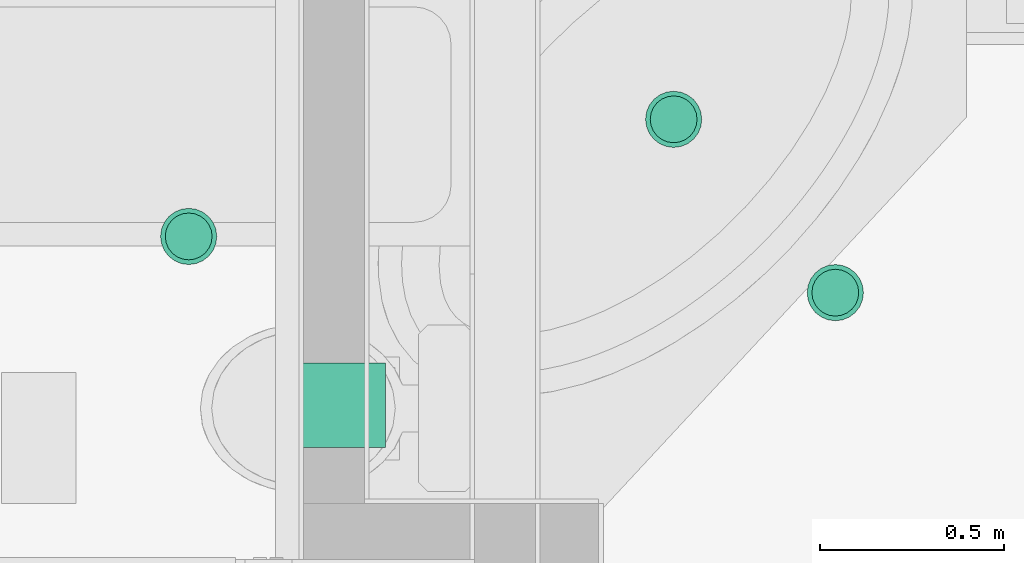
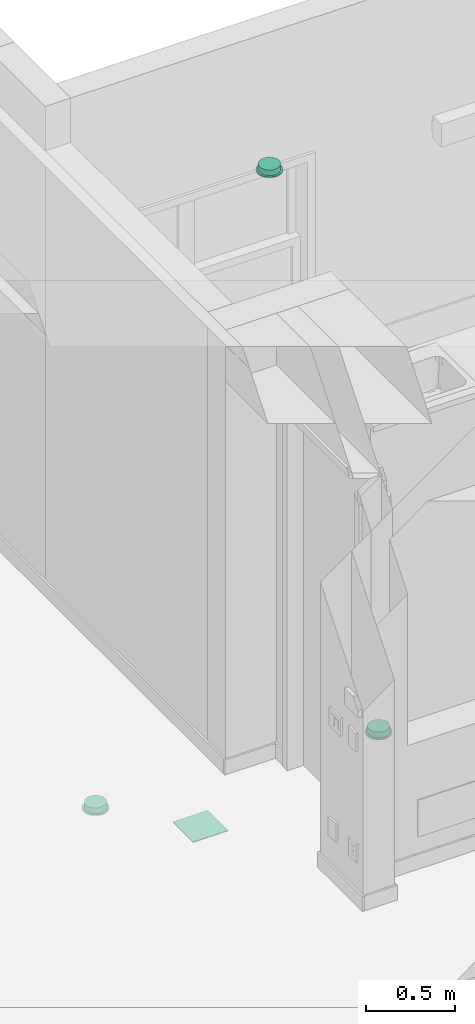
# One storey, part 41 of 60: 4 flow terminals.
"""IFC2X3 building model written with IfcOpenShell, lengths in feet."""

from ifc_helpers import new_model, entity, si_unit, converted_unit, direction, frame, origin, origin_2d_with_axis, place, context, subcontext, project, spatial, rectangle, extrude, faceted_brep, source, transform, mapped, material, material_list, type_object, type_shapes, element, save


model = new_model("IFC2X3")

# Units and contexts
model_context = context("Model", 3, precision=0.0001, world=origin(), true_north=direction((6.123031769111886e-17, 1.0)))
plan_context = context("Plan", 3, precision=0.0001, world=origin(), true_north=direction((6.123031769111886e-17, 1.0)))
body_context = subcontext(model_context, "Body", "Model", "MODEL_VIEW")
ifc_project = project(units=[converted_unit("LENGTHUNIT", "FOOT", entity("IfcLengthMeasure", 0.3048), si_unit("LENGTHUNIT", "METRE"), dimensions=[1, 0, 0, 0, 0, 0, 0]), converted_unit("AREAUNIT", "SQUARE FOOT", entity("IfcAreaMeasure", 0.09290304), si_unit("AREAUNIT", "SQUARE_METRE"), dimensions=[2, 0, 0, 0, 0, 0, 0]), converted_unit("PLANEANGLEUNIT", "DEGREE", entity("IfcPlaneAngleMeasure", 0.017453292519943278), si_unit("PLANEANGLEUNIT", "RADIAN"), dimensions=[0, 0, 0, 0, 0, 0, 0])], contexts=[model_context, plan_context])

# Site, building, storey
site_placement = place(None, origin())
site = spatial("IfcSite", under=ifc_project, at=site_placement, Name="Default", CompositionType="ELEMENT")
building_placement = place(site_placement, origin())
building = spatial("IfcBuilding", under=site, at=building_placement, CompositionType="ELEMENT")
storey_placement = place(building_placement, origin())
storey = spatial("IfcBuildingStorey", under=building, at=storey_placement, Name="First floor", CompositionType="ELEMENT", Elevation=0.0)

# Flow terminals
ifc_material_1 = material(Name="Default New Material")
ifc_material_2 = material(Name="Glass, White, High Luminance")
ifc_material_list = material_list([ifc_material_1, ifc_material_2])
light_fixture_type = type_object("IfcLightFixtureType", Name="C_Spotlight Recessed:Light 2", PredefinedType="NOTDEFINED", material=ifc_material_list)
shared_shape_1 = source(origin(), body_context, "Body", "Brep", [
    faceted_brep([(-0.12499999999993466, 0.21650635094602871, 0.020833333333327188), (-0.17677669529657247, 0.17677669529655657, 0.020833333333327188), (-0.08333333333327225, 0.14433756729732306, 0.020833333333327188), (-0.04313650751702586, 0.1609876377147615, 0.020833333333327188), (-0.0647047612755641, 0.24148145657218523, 0.020833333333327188), (-0.11785113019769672, 0.11785113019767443, 0.020833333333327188), (-0.21650635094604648, 0.12499999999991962, 0.020833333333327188), (-0.1443375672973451, 0.08333333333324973, 0.020833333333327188), (-0.16098763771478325, 0.04313650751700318, 0.020833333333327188), (-0.2414814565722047, 0.06470476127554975, 0.020833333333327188), (-0.166666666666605, 0.0, 0.020833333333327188), (-0.24999999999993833, 0.0, 0.020833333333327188), (-0.16098763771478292, -0.043136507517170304, 0.020833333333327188), (-0.24148145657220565, -0.06470476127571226, 0.020833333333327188), (-0.14433756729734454, -0.08333333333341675, 0.020833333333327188), (-0.2165063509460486, -0.12500000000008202, 0.020833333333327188), (-0.117851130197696, -0.11785113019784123, 0.020833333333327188), (-0.1767766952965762, -0.17677669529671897, 0.020833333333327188), (-0.08333333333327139, -0.14433756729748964, 0.020833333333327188), (-0.12499999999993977, -0.21650635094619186, 0.020833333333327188), (-0.04313650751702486, -0.16098763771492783, 0.020833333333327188), (-0.06470476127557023, -0.24148145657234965, 0.020833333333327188), (0.0, -0.1666666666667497, 0.020833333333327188), (0.0, -0.25000000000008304, 0.020833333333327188), (0.04313650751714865, -0.1609876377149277, 0.020833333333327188), (0.06470476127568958, -0.24148145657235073, 0.020833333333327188), (0.08333333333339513, -0.1443375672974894, 0.020833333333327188), (0.12500000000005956, -0.21650635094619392, 0.020833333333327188), (0.11785113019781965, -0.11785113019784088, 0.020833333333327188), (0.1767766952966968, -0.1767766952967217, 0.020833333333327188), (0.14433756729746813, -0.0833333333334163, 0.020833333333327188), (0.21650635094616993, -0.12500000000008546, 0.020833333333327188), (0.24148145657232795, -0.06470476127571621, 0.020833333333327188), (0.16098763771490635, -0.0431365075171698, 0.020833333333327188), (0.2500000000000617, 0.0, 0.020833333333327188), (0.1666666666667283, 0.0, 0.020833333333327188), (0.24148145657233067, 0.06470476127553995, 0.020833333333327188), (0.16098763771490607, 0.04313650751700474, 0.020833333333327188), (0.21650635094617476, 0.12499999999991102, 0.020833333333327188), (0.14433756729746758, 0.08333333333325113, 0.020833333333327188), (0.17677669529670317, 0.17677669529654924, 0.020833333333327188), (0.1178511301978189, 0.11785113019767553, 0.020833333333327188), (0.1250000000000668, 0.21650635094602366, 0.020833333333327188), (0.08333333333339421, 0.14433756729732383, 0.020833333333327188), (0.06470476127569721, 0.2414814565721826, 0.020833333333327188), (0.04313650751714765, 0.16098763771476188, 0.020833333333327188), (0.0, 0.24999999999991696, 0.020833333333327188), (0.0, 0.1666666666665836, 0.020833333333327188), (-0.12499999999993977, -0.21650635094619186, 0.0), (-0.1767766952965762, -0.17677669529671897, 0.0), (-0.08333333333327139, -0.14433756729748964, 0.0), (-0.04313650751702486, -0.16098763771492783, 0.0), (-0.06470476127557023, -0.24148145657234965, 0.0), (-0.117851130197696, -0.11785113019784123, 0.0), (-0.2165063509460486, -0.12500000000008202, 0.0), (-0.14433756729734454, -0.08333333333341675, 0.0), (-0.16098763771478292, -0.043136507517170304, 0.0), (-0.24148145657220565, -0.06470476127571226, 0.0), (-0.166666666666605, 0.0, 0.0), (-0.24999999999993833, 0.0, 0.0), (-0.16098763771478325, 0.04313650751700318, 0.0), (-0.2414814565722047, 0.06470476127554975, 0.0), (-0.1443375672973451, 0.08333333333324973, 0.0), (-0.21650635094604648, 0.12499999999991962, 0.0), (-0.11785113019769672, 0.11785113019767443, 0.0), (-0.17677669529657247, 0.17677669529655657, 0.0), (-0.08333333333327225, 0.14433756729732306, 0.0), (-0.12499999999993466, 0.21650635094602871, 0.0), (-0.04313650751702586, 0.1609876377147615, 0.0), (-0.0647047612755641, 0.24148145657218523, 0.0), (0.0, 0.1666666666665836, 0.0), (0.0, 0.24999999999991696, 0.0), (0.04313650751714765, 0.16098763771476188, 0.0), (0.06470476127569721, 0.2414814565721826, 0.0), (0.08333333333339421, 0.14433756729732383, 0.0), (0.1250000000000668, 0.21650635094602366, 0.0), (0.1178511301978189, 0.11785113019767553, 0.0), (0.17677669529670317, 0.17677669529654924, 0.0), (0.14433756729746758, 0.08333333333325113, 0.0), (0.21650635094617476, 0.12499999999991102, 0.0), (0.24148145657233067, 0.06470476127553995, 0.0), (0.16098763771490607, 0.04313650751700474, 0.0), (0.2500000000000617, 0.0, 0.0), (0.1666666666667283, 0.0, 0.0), (0.24148145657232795, -0.06470476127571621, 0.0), (0.16098763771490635, -0.0431365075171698, 0.0), (0.21650635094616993, -0.12500000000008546, 0.0), (0.14433756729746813, -0.0833333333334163, 0.0), (0.1767766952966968, -0.1767766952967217, 0.0), (0.11785113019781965, -0.11785113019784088, 0.0), (0.12500000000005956, -0.21650635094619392, 0.0), (0.08333333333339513, -0.1443375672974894, 0.0), (0.06470476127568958, -0.24148145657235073, 0.0), (0.04313650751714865, -0.1609876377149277, 0.0), (0.0, -0.25000000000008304, 0.0), (0.0, -0.1666666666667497, 0.0)], [[[0, 1, 2]], [[0, 2, 3]], [[3, 4, 0]], [[2, 1, 5]], [[6, 5, 1]], [[7, 5, 6]], [[8, 7, 6]], [[8, 6, 9]], [[8, 9, 10]], [[10, 9, 11]], [[12, 10, 11]], [[12, 11, 13]], [[14, 12, 13]], [[14, 13, 15]], [[16, 14, 15]], [[15, 17, 16]], [[17, 18, 16]], [[18, 17, 19]], [[18, 19, 20]], [[21, 20, 19]], [[20, 21, 22]], [[22, 21, 23]], [[23, 24, 22]], [[24, 23, 25]], [[24, 25, 26]], [[27, 26, 25]], [[27, 28, 26]], [[27, 29, 28]], [[30, 28, 29]], [[31, 30, 29]], [[32, 30, 31]], [[33, 30, 32]], [[33, 32, 34]], [[34, 35, 33]], [[36, 35, 34]], [[36, 37, 35]], [[37, 36, 38]], [[39, 37, 38]], [[39, 38, 40]], [[39, 40, 41]], [[40, 42, 41]], [[41, 42, 43]], [[43, 42, 44]], [[44, 45, 43]], [[46, 45, 44]], [[4, 47, 46]], [[45, 46, 47]], [[4, 3, 47]], [[48, 49, 50]], [[48, 50, 51]], [[51, 52, 48]], [[50, 49, 53]], [[54, 53, 49]], [[55, 53, 54]], [[56, 55, 54]], [[56, 54, 57]], [[56, 57, 58]], [[58, 57, 59]], [[60, 58, 59]], [[60, 59, 61]], [[62, 60, 61]], [[62, 61, 63]], [[64, 62, 63]], [[63, 65, 64]], [[65, 66, 64]], [[66, 65, 67]], [[66, 67, 68]], [[69, 68, 67]], [[68, 69, 70]], [[70, 69, 71]], [[71, 72, 70]], [[72, 71, 73]], [[72, 73, 74]], [[75, 74, 73]], [[75, 76, 74]], [[75, 77, 76]], [[78, 76, 77]], [[79, 78, 77]], [[80, 78, 79]], [[81, 78, 80]], [[81, 80, 82]], [[82, 83, 81]], [[84, 83, 82]], [[84, 85, 83]], [[85, 84, 86]], [[87, 85, 86]], [[87, 86, 88]], [[87, 88, 89]], [[88, 90, 89]], [[89, 90, 91]], [[91, 90, 92]], [[92, 93, 91]], [[94, 93, 92]], [[52, 95, 94]], [[93, 94, 95]], [[52, 51, 95]], [[10, 58, 60, 8]], [[8, 60, 62, 7]], [[2, 5, 64, 66]], [[62, 64, 5, 7]], [[3, 2, 66, 68]], [[70, 47, 3, 68]], [[45, 72, 74, 43]], [[43, 74, 76, 41]], [[37, 39, 78, 81]], [[76, 78, 39, 41]], [[35, 37, 81, 83]], [[45, 47, 70, 72]], [[35, 83, 85, 33]], [[33, 85, 87, 30]], [[26, 28, 89, 91]], [[87, 89, 28, 30]], [[24, 26, 91, 93]], [[95, 22, 24, 93]], [[20, 51, 50, 18]], [[18, 50, 53, 16]], [[12, 14, 55, 56]], [[53, 55, 14, 16]], [[10, 12, 56, 58]], [[20, 22, 95, 51]], [[57, 13, 11, 59]], [[54, 15, 13, 57]], [[19, 17, 49, 48]], [[54, 49, 17, 15]], [[21, 19, 48, 52]], [[23, 21, 52, 94]], [[92, 25, 23, 94]], [[90, 27, 25, 92]], [[31, 29, 88, 86]], [[90, 88, 29, 27]], [[32, 31, 86, 84]], [[34, 32, 84, 82]], [[80, 36, 34, 82]], [[79, 38, 36, 80]], [[42, 40, 77, 75]], [[79, 77, 40, 38]], [[44, 42, 75, 73]], [[46, 44, 73, 71]], [[69, 4, 46, 71]], [[67, 0, 4, 69]], [[6, 1, 65, 63]], [[67, 65, 1, 0]], [[9, 6, 63, 61]], [[11, 9, 61, 59]]]),
    faceted_brep([(0.043136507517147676, -0.160987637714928, 0.020833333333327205), (0.08333333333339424, -0.14433756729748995, 0.020833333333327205), (0.11785113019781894, -0.11785113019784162, 0.020833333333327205), (0.14433756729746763, -0.08333333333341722, 0.020833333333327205), (0.16098763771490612, -0.043136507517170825, 0.020833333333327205), (0.16666666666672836, 0.0, 0.020833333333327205), (0.1609876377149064, 0.04313650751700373, 0.020833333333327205), (0.1443375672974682, 0.08333333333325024, 0.020833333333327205), (0.11785113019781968, 0.11785113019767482, 0.020833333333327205), (0.08333333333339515, 0.14433756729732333, 0.020833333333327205), (0.043136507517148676, 0.16098763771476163, 0.020833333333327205), (0.0, 0.16666666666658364, 0.020833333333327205), (-0.04313650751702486, 0.16098763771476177, 0.020833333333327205), (-0.08333333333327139, 0.14433756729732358, 0.020833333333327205), (-0.117851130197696, 0.11785113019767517, 0.020833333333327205), (-0.1443375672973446, 0.08333333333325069, 0.020833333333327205), (-0.16098763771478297, 0.043136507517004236, 0.020833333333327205), (-0.166666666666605, 0.0, 0.020833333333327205), (-0.1609876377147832, -0.04313650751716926, 0.020833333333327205), (-0.14433756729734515, -0.08333333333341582, 0.020833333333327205), (-0.11785113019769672, -0.11785113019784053, 0.020833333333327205), (-0.08333333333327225, -0.14433756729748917, 0.020833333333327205), (-0.04313650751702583, -0.1609876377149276, 0.020833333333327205), (0.0, -0.16666666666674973, 0.020833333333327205), (0.043136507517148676, 0.16098763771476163, 0.0), (0.08333333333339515, 0.14433756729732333, 0.0), (0.11785113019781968, 0.11785113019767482, 0.0), (0.1443375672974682, 0.08333333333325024, 0.0), (0.1609876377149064, 0.04313650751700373, 0.0), (0.16666666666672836, 0.0, 0.0), (0.16098763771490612, -0.043136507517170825, 0.0), (0.14433756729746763, -0.08333333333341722, 0.0), (0.11785113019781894, -0.11785113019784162, 0.0), (0.08333333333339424, -0.14433756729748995, 0.0), (0.043136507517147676, -0.160987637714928, 0.0), (0.0, -0.16666666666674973, 0.0), (-0.04313650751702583, -0.1609876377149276, 0.0), (-0.08333333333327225, -0.14433756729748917, 0.0), (-0.11785113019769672, -0.11785113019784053, 0.0), (-0.14433756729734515, -0.08333333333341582, 0.0), (-0.1609876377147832, -0.04313650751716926, 0.0), (-0.166666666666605, 0.0, 0.0), (-0.16098763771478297, 0.043136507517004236, 0.0), (-0.1443375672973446, 0.08333333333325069, 0.0), (-0.117851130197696, 0.11785113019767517, 0.0), (-0.08333333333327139, 0.14433756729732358, 0.0), (-0.04313650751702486, 0.16098763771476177, 0.0), (0.0, 0.16666666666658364, 0.0)], [[[0, 1, 2, 3, 4, 5, 6, 7, 8, 9, 10, 11, 12, 13, 14, 15, 16, 17, 18, 19, 20, 21, 22, 23]], [[24, 25, 26, 27, 28, 29, 30, 31, 32, 33, 34, 35, 36, 37, 38, 39, 40, 41, 42, 43, 44, 45, 46, 47]], [[40, 18, 17, 41]], [[39, 19, 18, 40]], [[21, 20, 38, 37]], [[39, 38, 20, 19]], [[22, 21, 37, 36]], [[23, 22, 36, 35]], [[34, 0, 23, 35]], [[33, 1, 0, 34]], [[3, 2, 32, 31]], [[33, 32, 2, 1]], [[4, 3, 31, 30]], [[5, 4, 30, 29]], [[28, 6, 5, 29]], [[27, 7, 6, 28]], [[9, 8, 26, 25]], [[27, 26, 8, 7]], [[10, 9, 25, 24]], [[11, 10, 24, 47]], [[46, 12, 11, 47]], [[45, 13, 12, 46]], [[15, 14, 44, 43]], [[45, 44, 14, 13]], [[16, 15, 43, 42]], [[17, 16, 42, 41]]]),
    faceted_brep([(0.0, -0.16666666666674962, -0.10416666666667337), (0.04313650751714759, -0.1609876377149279, -0.10416666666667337), (0.08333333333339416, -0.1443375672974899, -0.10416666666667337), (0.1178511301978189, -0.11785113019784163, -0.10416666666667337), (0.1443375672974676, -0.08333333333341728, -0.10416666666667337), (0.16098763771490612, -0.043136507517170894, -0.10416666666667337), (0.16666666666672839, 0.0, -0.10416666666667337), (0.16098763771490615, 0.04313650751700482, -0.10416666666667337), (0.14433756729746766, 0.08333333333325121, -0.10416666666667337), (0.11785113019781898, 0.11785113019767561, -0.10416666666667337), (0.0833333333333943, 0.14433756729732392, -0.10416666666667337), (0.04313650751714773, 0.16098763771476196, -0.10416666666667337), (0.0, 0.1666666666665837, -0.10416666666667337), (-0.043136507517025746, 0.16098763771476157, -0.10416666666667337), (-0.08333333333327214, 0.14433756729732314, -0.10416666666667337), (-0.11785113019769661, 0.11785113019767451, -0.10416666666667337), (-0.14433756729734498, 0.08333333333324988, -0.10416666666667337), (-0.16098763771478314, 0.04313650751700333, -0.10416666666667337), (-0.16666666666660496, 0.0, -0.10416666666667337), (-0.16098763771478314, -0.04313650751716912, -0.10416666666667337), (-0.1443375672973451, -0.08333333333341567, -0.10416666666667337), (-0.11785113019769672, -0.11785113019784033, -0.10416666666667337), (-0.08333333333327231, -0.14433756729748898, -0.10416666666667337), (-0.04313650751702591, -0.16098763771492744, -0.10416666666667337), (0.0, 0.20833333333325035, -0.12500000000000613), (0.053920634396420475, 0.20123454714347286, -0.12500000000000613), (0.10416666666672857, 0.18042195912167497, -0.12500000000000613), (0.14731391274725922, 0.14731391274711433, -0.12500000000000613), (0.18042195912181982, 0.1041666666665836, -0.12500000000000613), (0.2012345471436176, 0.053920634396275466, -0.12500000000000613), (0.20833333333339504, 0.0, -0.12500000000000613), (0.20123454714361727, -0.0539206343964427, -0.12500000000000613), (0.18042195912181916, -0.10416666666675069, -0.12500000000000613), (0.1473139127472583, -0.14731391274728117, -0.12500000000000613), (0.10416666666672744, -0.18042195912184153, -0.12500000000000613), (0.053920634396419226, -0.2012345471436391, -0.12500000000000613), (0.0, -0.20833333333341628, -0.12500000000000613), (-0.05392063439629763, -0.20123454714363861, -0.12500000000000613), (-0.10416666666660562, -0.18042195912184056, -0.12500000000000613), (-0.14731391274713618, -0.1473139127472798, -0.12500000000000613), (-0.18042195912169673, -0.10416666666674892, -0.12500000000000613), (-0.20123454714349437, -0.05392063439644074, -0.12500000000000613), (-0.2083333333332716, 0.0, -0.12500000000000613), (-0.20123454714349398, 0.053920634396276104, -0.12500000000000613), (-0.18042195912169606, 0.10416666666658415, -0.12500000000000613), (-0.1473139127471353, 0.14731391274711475, -0.12500000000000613), (-0.10416666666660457, 0.1804219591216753, -0.12500000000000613), (-0.05392063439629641, 0.20123454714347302, -0.12500000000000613), (-0.2012345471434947, -0.053920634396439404, -0.10416666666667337), (-0.20123454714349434, -0.053920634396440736, 0.0), (-0.20833333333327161, 0.0, 0.0), (-0.2083333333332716, 0.0, -0.10416666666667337), (-0.1804219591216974, -0.10416666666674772, -0.10416666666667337), (-0.1804219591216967, -0.10416666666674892, 0.0), (-0.10416666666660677, -0.18042195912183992, -0.10416666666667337), (-0.10416666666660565, -0.18042195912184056, 0.0), (-0.1473139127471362, -0.1473139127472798, 0.0), (-0.14731391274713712, -0.14731391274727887, -0.10416666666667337), (-0.053920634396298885, -0.20123454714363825, -0.10416666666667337), (-0.05392063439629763, -0.20123454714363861, 0.0), (0.0, -0.20833333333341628, -0.10416666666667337), (0.0, -0.20833333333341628, 0.0), (0.05392063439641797, -0.20123454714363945, -0.10416666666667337), (0.053920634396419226, -0.2012345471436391, 0.0), (0.10416666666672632, -0.1804219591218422, -0.10416666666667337), (0.10416666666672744, -0.18042195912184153, 0.0), (0.1804219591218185, -0.1041666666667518, -0.10416666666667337), (0.18042195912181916, -0.10416666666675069, 0.0), (0.1473139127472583, -0.14731391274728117, 0.0), (0.1473139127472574, -0.1473139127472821, -0.10416666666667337), (0.20123454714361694, -0.05392063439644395, -0.10416666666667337), (0.20123454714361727, -0.05392063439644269, 0.0), (0.20833333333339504, 0.0, -0.10416666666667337), (0.20833333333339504, 0.0, 0.0), (0.2012345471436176, 0.053920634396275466, -0.10416666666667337), (0.2012345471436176, 0.05392063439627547, 0.0), (0.18042195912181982, 0.1041666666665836, -0.10416666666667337), (0.18042195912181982, 0.1041666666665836, 0.0), (0.10416666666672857, 0.18042195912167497, -0.10416666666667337), (0.10416666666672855, 0.18042195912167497, 0.0), (0.14731391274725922, 0.14731391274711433, 0.0), (0.14731391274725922, 0.14731391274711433, -0.10416666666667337), (0.053920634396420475, 0.20123454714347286, -0.10416666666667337), (0.053920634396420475, 0.20123454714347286, 0.0), (0.0, 0.20833333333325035, -0.10416666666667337), (0.0, 0.20833333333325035, 0.0), (-0.05392063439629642, 0.20123454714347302, -0.10416666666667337), (-0.05392063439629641, 0.20123454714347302, 0.0), (-0.10416666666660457, 0.1804219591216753, -0.10416666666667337), (-0.10416666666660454, 0.1804219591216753, 0.0), (-0.18042195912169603, 0.10416666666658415, -0.10416666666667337), (-0.18042195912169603, 0.10416666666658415, 0.0), (-0.14731391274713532, 0.14731391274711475, 0.0), (-0.14731391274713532, 0.14731391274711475, -0.10416666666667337), (-0.20123454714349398, 0.053920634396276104, -0.10416666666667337), (-0.20123454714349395, 0.05392063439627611, 0.0), (-0.08333333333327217, 0.14433756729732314, 0.0), (-0.043136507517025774, 0.16098763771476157, 0.0), (-0.11785113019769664, 0.11785113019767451, 0.0), (-0.144337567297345, 0.08333333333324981, 0.0), (-0.16098763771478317, 0.04313650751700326, 0.0), (-0.16666666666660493, 0.0, 0.0), (-0.16098763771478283, -0.04313650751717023, 0.0), (-0.14433756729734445, -0.08333333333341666, 0.0), (-0.11785113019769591, -0.11785113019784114, 0.0), (-0.08333333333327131, -0.14433756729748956, 0.0), (-0.043136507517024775, -0.16098763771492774, 0.0), (0.0, -0.16666666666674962, 0.0), (0.04313650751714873, -0.1609876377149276, 0.0), (0.08333333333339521, -0.1443375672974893, 0.0), (0.11785113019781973, -0.1178511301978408, 0.0), (0.14433756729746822, -0.08333333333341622, 0.0), (0.16098763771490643, -0.04313650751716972, 0.0), (0.16666666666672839, 0.0, 0.0), (0.16098763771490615, 0.04313650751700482, 0.0), (0.14433756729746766, 0.08333333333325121, 0.0), (0.11785113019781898, 0.11785113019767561, 0.0), (0.0833333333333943, 0.14433756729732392, 0.0), (0.04313650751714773, 0.16098763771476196, 0.0), (0.0, 0.1666666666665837, 0.0)], [[[0, 1, 2, 3, 4, 5, 6, 7, 8, 9, 10, 11, 12, 13, 14, 15, 16, 17, 18, 19, 20, 21, 22, 23]], [[24, 25, 26, 27, 28, 29, 30, 31, 32, 33, 34, 35, 36, 37, 38, 39, 40, 41, 42, 43, 44, 45, 46, 47]], [[41, 48, 49, 50, 51, 42]], [[40, 52, 53, 49, 48, 41]], [[54, 55, 56, 57, 39, 38]], [[40, 39, 57, 56, 53, 52]], [[58, 59, 55, 54, 38, 37]], [[60, 61, 59, 58, 37, 36]], [[35, 62, 63, 61, 60, 36]], [[34, 64, 65, 63, 62, 35]], [[66, 67, 68, 69, 33, 32]], [[34, 33, 69, 68, 65, 64]], [[70, 71, 67, 66, 32, 31]], [[72, 73, 71, 70, 31, 30]], [[29, 74, 75, 73, 72, 30]], [[28, 76, 77, 75, 74, 29]], [[78, 79, 80, 81, 27, 26]], [[28, 27, 81, 80, 77, 76]], [[82, 83, 79, 78, 26, 25]], [[84, 85, 83, 82, 25, 24]], [[47, 86, 87, 85, 84, 24]], [[46, 88, 89, 87, 86, 47]], [[90, 91, 92, 93, 45, 44]], [[46, 45, 93, 92, 89, 88]], [[94, 95, 91, 90, 44, 43]], [[51, 50, 95, 94, 43, 42]], [[89, 92, 96]], [[89, 96, 97]], [[97, 87, 89]], [[96, 92, 98]], [[91, 98, 92]], [[99, 98, 91]], [[100, 99, 91]], [[100, 91, 95]], [[100, 95, 101]], [[101, 95, 50]], [[102, 101, 50]], [[102, 50, 49]], [[103, 102, 49]], [[103, 49, 53]], [[104, 103, 53]], [[53, 56, 104]], [[56, 105, 104]], [[105, 56, 55]], [[105, 55, 106]], [[59, 106, 55]], [[106, 59, 107]], [[107, 59, 61]], [[61, 108, 107]], [[108, 61, 63]], [[108, 63, 109]], [[65, 109, 63]], [[65, 110, 109]], [[65, 68, 110]], [[111, 110, 68]], [[67, 111, 68]], [[71, 111, 67]], [[112, 111, 71]], [[112, 71, 73]], [[73, 113, 112]], [[75, 113, 73]], [[75, 114, 113]], [[114, 75, 77]], [[115, 114, 77]], [[115, 77, 80]], [[115, 80, 116]], [[80, 79, 116]], [[116, 79, 117]], [[117, 79, 83]], [[83, 118, 117]], [[85, 118, 83]], [[87, 119, 85]], [[85, 119, 118]], [[87, 97, 119]], [[113, 6, 5, 112]], [[112, 5, 4, 111]], [[109, 110, 3, 2]], [[4, 3, 110, 111]], [[108, 109, 2, 1]], [[0, 107, 108, 1]], [[104, 105, 22, 21]], [[23, 22, 105, 106]], [[102, 103, 20, 19]], [[104, 21, 20, 103]], [[102, 19, 18, 101]], [[0, 23, 106, 107]], [[101, 18, 17, 100]], [[100, 17, 16, 99]], [[96, 98, 15, 14]], [[16, 15, 98, 99]], [[97, 96, 14, 13]], [[12, 119, 97, 13]], [[118, 11, 10, 117]], [[117, 10, 9, 116]], [[114, 115, 8, 7]], [[9, 8, 115, 116]], [[113, 114, 7, 6]], [[118, 119, 12, 11]]]),
])
type_shapes(light_fixture_type, [shared_shape_1])
for number, where, z_axis, x_axis, name in (
    (1, (-3.020833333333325, 44.91632150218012, 20.666666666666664), (0.0, 0.0, -1.0), (0.0, -1.0, 0.0), "C_Spotlight Recessed:Light 2"),
    (2, (-7.333333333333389, 43.87500000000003, 8.416666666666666), (0.0, 0.0, -1.0), (0.0, -1.0, 0.0), "C_Spotlight Recessed:Light 2"),
    (3, (-1.5833333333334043, 43.37499999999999, 8.416666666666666), (0.0, 0.0, -1.0), (0.0, -1.0, 0.0), "C_Spotlight Recessed:Light 2"),
):
    element("IfcFlowTerminal", number, at=place(storey_placement, frame(where, z_axis=z_axis, x_axis=x_axis)), inside=storey, type_object=light_fixture_type, material=ifc_material_list, Name=name, ObjectType="C_Spotlight Recessed:Light 2", context=body_context, shape_type="MappedRepresentation", body=[
        mapped(shared_shape_1, transform((0.0, 0.0, 0.0), scale=1.0)),
    ])
air_terminal_type = type_object("IfcAirTerminalType", Name="C_Grill_Surface Based:Standard 2", PredefinedType="NOTDEFINED", material=ifc_material_1)
shared_shape_2 = source(origin(), body_context, "Body", "SweptSolid", [
    extrude(rectangle(XDim=0.75, YDim=0.7499999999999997, at=origin_2d_with_axis()), frame((0.0, 0.0, 0.0), z_axis=(0.0, 0.0, 1.0), x_axis=(-1.0, 0.0, 0.0)), (0.0, 0.0, 1.0), 0.020833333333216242),
])
type_shapes(air_terminal_type, [shared_shape_2])
flow_terminal_placement = place(storey_placement, frame((-5.958333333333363, 42.37499999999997, 8.416666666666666), z_axis=(0.0, 0.0, -1.0), x_axis=(1.0, 0.0, 0.0)))
element("IfcFlowTerminal", 4, at=flow_terminal_placement, inside=storey, type_object=air_terminal_type, material=ifc_material_1, Name="C_Grill_Surface Based:Standard 2", ObjectType="C_Grill_Surface Based:Standard 2", context=body_context, shape_type="MappedRepresentation", body=[
    mapped(shared_shape_2, transform((0.0, 0.0, 0.0), scale=1.0)),
])

save(model, "model.ifc")
